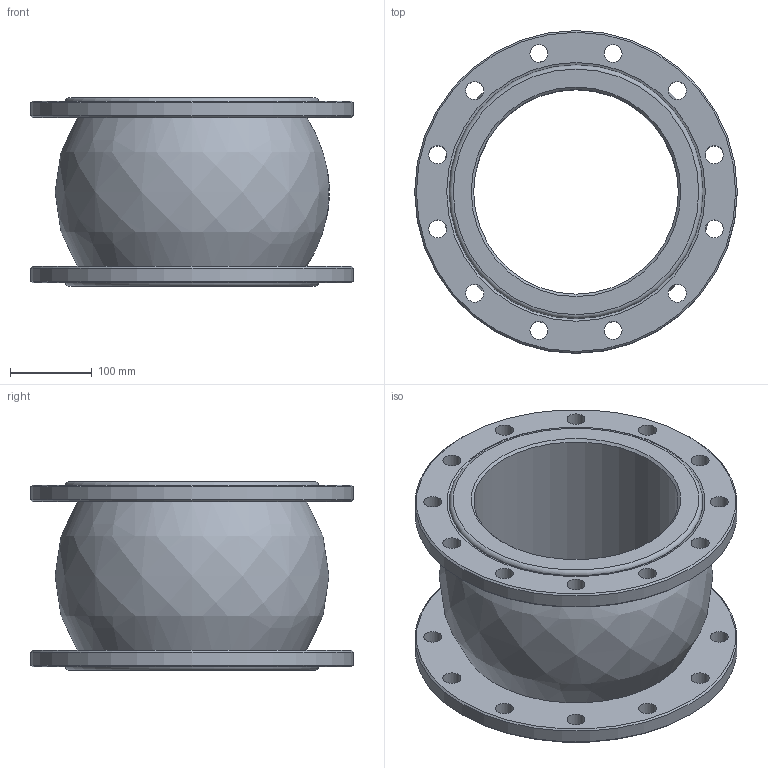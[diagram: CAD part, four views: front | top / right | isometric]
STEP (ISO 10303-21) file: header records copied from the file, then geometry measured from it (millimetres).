
FILE_DESCRIPTION(/* description */ ('D140-02169','CAx-IF Rec.Pracs.---Representation and Presentation of Product Manufacturing Information (PMI)---4.0---2014-10-13'),/* implementation_level */ '2;1');
FILE_NAME(/* name */ '',/* time_stamp */ '2026-04-30T11:06:51+03:00',/* author */ ('DN.RU'),/* organization */ ('DN.RU'),/* preprocessor_version */ 'ST-DEVELOPER v20',/* originating_system */ 'Autodesk Inventor 2025',/* authorisation */ '');
FILE_SCHEMA (('AP242_MANAGED_MODEL_BASED_3D_ENGINEERING_MIM_LF { 1 0 10303 442 1 1 4 }'));
Length unit declared in the file: millimetre
Products named in the file (1): CR-E25-F
Bounding box: 394 x 394 x 230 mm (x, y, z)
Volume: 8369791.9 mm3; surface area: 702906.9 mm2
Topology: 1 solids, 1 shells, 115 faces, 312 edges, 206 vertices
Faces by surface type: plane 43, bspline 34, cylinder 29, cone 7, torus 2
Full cylindrical faces by diameter (mm): 22 x24, 250 x1, 310 x2, 394 x2
Entity records: 4878 total; most frequent: CARTESIAN_POINT 1680, ORIENTED_EDGE 624, DIRECTION 608, EDGE_CURVE 312, AXIS2_PLACEMENT_3D 256, VERTEX_POINT 206, EDGE_LOOP 172, CIRCLE 161
